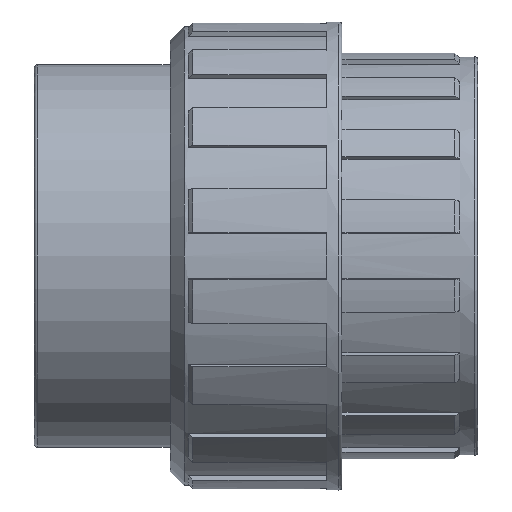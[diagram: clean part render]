
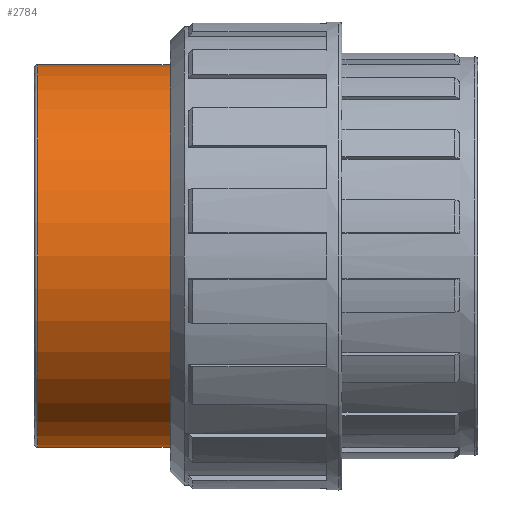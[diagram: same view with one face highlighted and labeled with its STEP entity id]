
A CAD part, front view. The second image highlights one B-rep face of the part: STEP entity #2784.
In plain terms, the highlighted cylindrical face has radius 54 mm (diameter 108 mm), a full revolution.
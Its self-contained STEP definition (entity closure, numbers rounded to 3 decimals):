
#65=FACE_BOUND('',#544,.T.);
#94=CYLINDRICAL_SURFACE('',#3074,54.);
#236=CIRCLE('',#3073,54.);
#237=CIRCLE('',#3075,54.);
#382=FACE_OUTER_BOUND('',#543,.T.);
#543=EDGE_LOOP('',(#2467));
#544=EDGE_LOOP('',(#2468));
#1342=VERTEX_POINT('',#4740);
#1343=VERTEX_POINT('',#4743);
#1743=EDGE_CURVE('',#1342,#1342,#236,.T.);
#1744=EDGE_CURVE('',#1343,#1343,#237,.T.);
#2467=ORIENTED_EDGE('',*,*,#1744,.T.);
#2468=ORIENTED_EDGE('',*,*,#1743,.F.);
#2784=ADVANCED_FACE('',(#382,#65),#94,.T.);
#3073=AXIS2_PLACEMENT_3D('',#4741,#3900,#3901);
#3074=AXIS2_PLACEMENT_3D('',#4742,#3902,#3903);
#3075=AXIS2_PLACEMENT_3D('',#4744,#3904,#3905);
#3900=DIRECTION('center_axis',(-1.,0.,0.));
#3901=DIRECTION('ref_axis',(0.,1.,0.));
#3902=DIRECTION('center_axis',(-1.,0.,0.));
#3903=DIRECTION('ref_axis',(0.,-1.,0.));
#3904=DIRECTION('center_axis',(-1.,0.,0.));
#3905=DIRECTION('ref_axis',(0.,0.,1.));
#4740=CARTESIAN_POINT('',(-61.6,-54.,0.));
#4741=CARTESIAN_POINT('Origin',(-61.6,0.,0.));
#4742=CARTESIAN_POINT('Origin',(-43.375,0.,0.));
#4743=CARTESIAN_POINT('',(-24.25,-54.,0.));
#4744=CARTESIAN_POINT('Origin',(-24.25,0.,0.));
